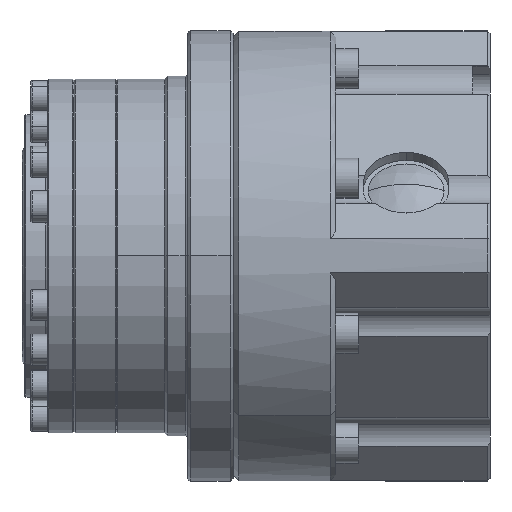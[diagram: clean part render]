
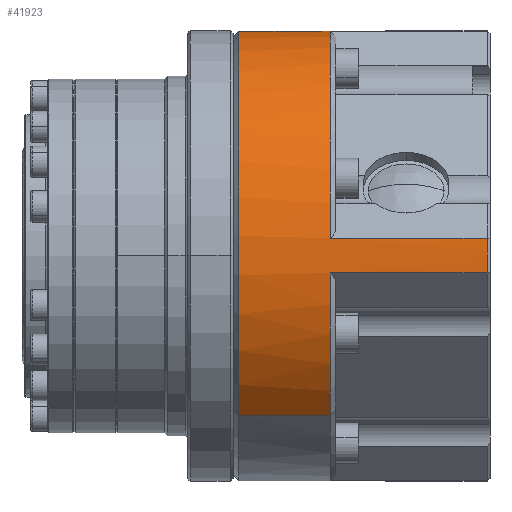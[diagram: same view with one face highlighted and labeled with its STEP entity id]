
A CAD part, top view. The second image highlights one B-rep face of the part: STEP entity #41923.
In plain terms, the highlighted cylindrical face has radius 39.5 mm (diameter 79 mm), a partial arc.
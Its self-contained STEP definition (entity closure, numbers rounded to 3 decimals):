
#572 = EDGE_CURVE ( 'NONE', #27027, #45825, #16033, .T. ) ;
#655 = DIRECTION ( 'NONE',  ( -1., 0., 0. ) ) ;
#1018 = DIRECTION ( 'NONE',  ( 1., 0., 0. ) ) ;
#1178 = VECTOR ( 'NONE', #655, 1000. ) ;
#1766 = AXIS2_PLACEMENT_3D ( 'NONE', #17954, #18192, #33495 ) ;
#3310 = DIRECTION ( 'NONE',  ( -1., 0., 0. ) ) ;
#3735 = CARTESIAN_POINT ( 'NONE',  ( 17., 0., -39.5 ) ) ;
#3737 = VERTEX_POINT ( 'NONE', #32470 ) ;
#3786 = DIRECTION ( 'NONE',  ( -1., 0., 0. ) ) ;
#3817 = AXIS2_PLACEMENT_3D ( 'NONE', #34884, #3786, #15254 ) ;
#3937 = CARTESIAN_POINT ( 'NONE',  ( 17., 30., 25.695 ) ) ;
#4891 = EDGE_CURVE ( 'NONE', #12491, #21666, #42864, .T. ) ;
#5043 = DIRECTION ( 'NONE',  ( 0., 0., -1. ) ) ;
#5614 = DIRECTION ( 'NONE',  ( -1., 0., 0. ) ) ;
#6127 = CARTESIAN_POINT ( 'NONE',  ( 1., 0., 39.5 ) ) ;
#6682 = CARTESIAN_POINT ( 'NONE',  ( 17., 25.695, -30. ) ) ;
#6843 = CARTESIAN_POINT ( 'NONE',  ( 17., 0., 0. ) ) ;
#7595 = CYLINDRICAL_SURFACE ( 'NONE', #3817, 39.5 ) ;
#8022 = CARTESIAN_POINT ( 'NONE',  ( 44.5, 25.695, -30. ) ) ;
#8111 = VECTOR ( 'NONE', #5614, 1000. ) ;
#8169 = VERTEX_POINT ( 'NONE', #6682 ) ;
#8543 = EDGE_CURVE ( 'NONE', #34078, #45825, #45072, .T. ) ;
#8654 = CARTESIAN_POINT ( 'NONE',  ( 0., 25.695, -30. ) ) ;
#10378 = VECTOR ( 'NONE', #3310, 1000. ) ;
#10383 = EDGE_CURVE ( 'NONE', #34078, #29276, #20154, .T. ) ;
#10568 = ORIENTED_EDGE ( 'NONE', *, *, #4891, .T. ) ;
#11027 = LINE ( 'NONE', #8654, #16423 ) ;
#11425 = CARTESIAN_POINT ( 'NONE',  ( 44.5, 0., 0. ) ) ;
#12491 = VERTEX_POINT ( 'NONE', #34129 ) ;
#12789 = AXIS2_PLACEMENT_3D ( 'NONE', #33725, #38073, #49254 ) ;
#12928 = CARTESIAN_POINT ( 'NONE',  ( 1., 0., 0. ) ) ;
#13341 = EDGE_CURVE ( 'NONE', #23781, #48722, #17610, .T. ) ;
#13770 = DIRECTION ( 'NONE',  ( 0., 0., -1. ) ) ;
#14255 = CARTESIAN_POINT ( 'NONE',  ( 0., 30., 25.695 ) ) ;
#14720 = ORIENTED_EDGE ( 'NONE', *, *, #41826, .T. ) ;
#15250 = DIRECTION ( 'NONE',  ( 0., 0., 1. ) ) ;
#15254 = DIRECTION ( 'NONE',  ( 0., 0., 1. ) ) ;
#16033 = CIRCLE ( 'NONE', #29037, 39.5 ) ;
#16043 = AXIS2_PLACEMENT_3D ( 'NONE', #6843, #48902, #37467 ) ;
#16423 = VECTOR ( 'NONE', #1018, 1000. ) ;
#16470 = CARTESIAN_POINT ( 'NONE',  ( 17., 0., 39.5 ) ) ;
#16574 = CARTESIAN_POINT ( 'NONE',  ( 44.5, 25.695, 30. ) ) ;
#17168 = EDGE_CURVE ( 'NONE', #8169, #48722, #11027, .T. ) ;
#17211 = CIRCLE ( 'NONE', #1766, 39.5 ) ;
#17386 = VECTOR ( 'NONE', #35203, 1000. ) ;
#17582 = DIRECTION ( 'NONE',  ( -1., 0., 0. ) ) ;
#17610 = CIRCLE ( 'NONE', #23280, 39.5 ) ;
#17954 = CARTESIAN_POINT ( 'NONE',  ( 17., 0., 0. ) ) ;
#18192 = DIRECTION ( 'NONE',  ( -1., 0., 0. ) ) ;
#18300 = EDGE_CURVE ( 'NONE', #33453, #3737, #17211, .T. ) ;
#18472 = CIRCLE ( 'NONE', #16043, 39.5 ) ;
#18594 = DIRECTION ( 'NONE',  ( 1., 0., 0. ) ) ;
#20154 = CIRCLE ( 'NONE', #12789, 39.5 ) ;
#20188 = EDGE_CURVE ( 'NONE', #27027, #21666, #43579, .T. ) ;
#20650 = CARTESIAN_POINT ( 'NONE',  ( 0., 0., 39.5 ) ) ;
#21649 = ORIENTED_EDGE ( 'NONE', *, *, #41287, .F. ) ;
#21666 = VERTEX_POINT ( 'NONE', #6127 ) ;
#22230 = ORIENTED_EDGE ( 'NONE', *, *, #8543, .F. ) ;
#23280 = AXIS2_PLACEMENT_3D ( 'NONE', #11425, #27210, #15250 ) ;
#23781 = VERTEX_POINT ( 'NONE', #29461 ) ;
#24020 = ORIENTED_EDGE ( 'NONE', *, *, #18300, .T. ) ;
#24722 = LINE ( 'NONE', #37228, #8111 ) ;
#25209 = ORIENTED_EDGE ( 'NONE', *, *, #572, .T. ) ;
#25237 = CARTESIAN_POINT ( 'NONE',  ( 17., 0., 0. ) ) ;
#25351 = EDGE_CURVE ( 'NONE', #33453, #29276, #42298, .T. ) ;
#25906 = ORIENTED_EDGE ( 'NONE', *, *, #20188, .F. ) ;
#27027 = VERTEX_POINT ( 'NONE', #16470 ) ;
#27210 = DIRECTION ( 'NONE',  ( -1., 0., 0. ) ) ;
#27405 = AXIS2_PLACEMENT_3D ( 'NONE', #12928, #32045, #5043 ) ;
#29037 = AXIS2_PLACEMENT_3D ( 'NONE', #25237, #17582, #13770 ) ;
#29276 = VERTEX_POINT ( 'NONE', #39123 ) ;
#29461 = CARTESIAN_POINT ( 'NONE',  ( 44.5, 30., -25.695 ) ) ;
#31556 = EDGE_LOOP ( 'NONE', ( #14720, #39868, #10568, #25906, #25209, #22230, #35863, #49783, #24020, #21649, #39331, #50363 ) ) ;
#31981 = LINE ( 'NONE', #35573, #1178 ) ;
#32045 = DIRECTION ( 'NONE',  ( 1., 0., 0. ) ) ;
#32470 = CARTESIAN_POINT ( 'NONE',  ( 17., 30., -25.695 ) ) ;
#33064 = VECTOR ( 'NONE', #18594, 1000. ) ;
#33453 = VERTEX_POINT ( 'NONE', #3937 ) ;
#33495 = DIRECTION ( 'NONE',  ( 0., 0., -1. ) ) ;
#33725 = CARTESIAN_POINT ( 'NONE',  ( 44.5, 0., 0. ) ) ;
#34078 = VERTEX_POINT ( 'NONE', #16574 ) ;
#34129 = CARTESIAN_POINT ( 'NONE',  ( 1., 0., -39.5 ) ) ;
#34884 = CARTESIAN_POINT ( 'NONE',  ( 0., 0., 0. ) ) ;
#35203 = DIRECTION ( 'NONE',  ( -1., 0., 0. ) ) ;
#35573 = CARTESIAN_POINT ( 'NONE',  ( 0., 30., -25.695 ) ) ;
#35863 = ORIENTED_EDGE ( 'NONE', *, *, #10383, .T. ) ;
#37228 = CARTESIAN_POINT ( 'NONE',  ( 0., 0., -39.5 ) ) ;
#37467 = DIRECTION ( 'NONE',  ( 0., 0., -1. ) ) ;
#38073 = DIRECTION ( 'NONE',  ( -1., 0., 0. ) ) ;
#38486 = CARTESIAN_POINT ( 'NONE',  ( 17., 25.695, 30. ) ) ;
#38719 = FACE_OUTER_BOUND ( 'NONE', #31556, .T. ) ;
#39123 = CARTESIAN_POINT ( 'NONE',  ( 44.5, 30., 25.695 ) ) ;
#39331 = ORIENTED_EDGE ( 'NONE', *, *, #13341, .T. ) ;
#39868 = ORIENTED_EDGE ( 'NONE', *, *, #45590, .T. ) ;
#41287 = EDGE_CURVE ( 'NONE', #23781, #3737, #31981, .T. ) ;
#41826 = EDGE_CURVE ( 'NONE', #8169, #45016, #18472, .T. ) ;
#41923 = ADVANCED_FACE ( 'NONE', ( #38719 ), #7595, .T. ) ;
#42016 = CARTESIAN_POINT ( 'NONE',  ( 0., 25.695, 30. ) ) ;
#42298 = LINE ( 'NONE', #14255, #33064 ) ;
#42864 = CIRCLE ( 'NONE', #27405, 39.5 ) ;
#43579 = LINE ( 'NONE', #20650, #17386 ) ;
#45016 = VERTEX_POINT ( 'NONE', #3735 ) ;
#45072 = LINE ( 'NONE', #42016, #10378 ) ;
#45590 = EDGE_CURVE ( 'NONE', #45016, #12491, #24722, .T. ) ;
#45825 = VERTEX_POINT ( 'NONE', #38486 ) ;
#48722 = VERTEX_POINT ( 'NONE', #8022 ) ;
#48902 = DIRECTION ( 'NONE',  ( -1., 0., 0. ) ) ;
#49254 = DIRECTION ( 'NONE',  ( 0., 0., 1. ) ) ;
#49783 = ORIENTED_EDGE ( 'NONE', *, *, #25351, .F. ) ;
#50363 = ORIENTED_EDGE ( 'NONE', *, *, #17168, .F. ) ;
